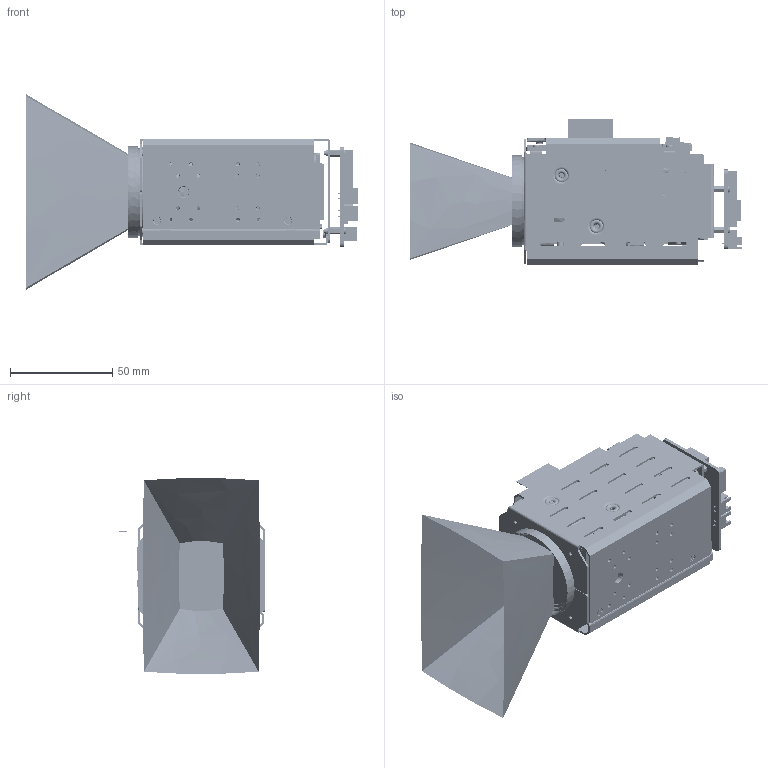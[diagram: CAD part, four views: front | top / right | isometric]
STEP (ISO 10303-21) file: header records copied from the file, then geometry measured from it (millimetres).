
FILE_DESCRIPTION((''),'2;1');
FILE_NAME('AS-CAM-23IP4K_ASM','2024-01-03T',('ming.wen'),(''),'CREO PARAMETRIC BY PTC INC, 2018070','CREO PARAMETRIC BY PTC INC, 2018070','');
FILE_SCHEMA(('AUTOMOTIVE_DESIGN { 1 0 10303 214 1 1 1 1 }'));
Products named in the file (63): IMX385-SENSORB-T10-ASM-190228; CMOS-IMX334LQR-C; DIANPIAN-IMX385; SILICON-FOR-LENS; ZIF-36PIN-33040480206; WAFER-8PIN-V; WAFER-3PIN-V; T-FLASH-CARD; BRACKET_LEFT; BRACKET_RIGHT; AS-CAM-23IP4KX-BRACKET_ASM; FV-AS-CAM-23IP4KX-CONVERT-V10-TOP_; COPPER_NUT_M2-3X5; FV-AS-CAM-23IP4KX-CONVERT_ASM; THERMAL-RUBBER; KM2-3; SCREW-PM2X4; FV-AS-CAM-23IP4KXX_MAINB_V11; WSON8-MX25L12835ZN; R0805H6; FS2411H11; SMAH24; FPC40CLH21; SOT23_123H11; ES0603H10; FPC43CLH21; VFLGA12C21X21H10; SOT26_6H14; LGA16C30X30H10; QFN44B60X60H9; L0603H10; OSC4S32X25H8; C0603H9; SRN8-0804; SO8J40X50H18; SOT353_5_SOT23_5H11; FID35R; SOT23_5H15; SOT23_6H11; SOD323H10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
Assembly tree (552 placements, depth 3):
  000-AS-CAM-23IP4KX_ASM
    IMX385-SENSORB-T10-ASM-190228
    CMOS-IMX334LQR-C
    DIANPIAN-IMX385
    SILICON-FOR-LENS
    ZIF-36PIN-33040480206
    WAFER-8PIN-V
    WAFER-3PIN-V
    T-FLASH-CARD
    AS-CAM-23IP4KX-BRACKET_ASM
      BRACKET_LEFT
      BRACKET_RIGHT
    FV-AS-CAM-23IP4KX-CONVERT_ASM
      FV-AS-CAM-23IP4KX-CONVERT-V10-TOP_
      COPPER_NUT_M2-3X5  x4
    THERMAL-RUBBER
    KM2-3  x5
    SCREW-PM2X4  x7
    FV-AS-CAM-23IP4KXX_MAINB_V11_ASM
      FV-AS-CAM-23IP4KXX_MAINB_V11
      WSON8-MX25L12835ZN
      R0805H6
      FS2411H11
      SMAH24  x2
      FPC40CLH21
      SOT23_123H11
      ES0603H10  x11
      FPC43CLH21
      VFLGA12C21X21H10
      SOT26_6H14
      LGA16C30X30H10
      QFN44B60X60H9  x2
      L0603H10  x14
      OSC4S32X25H8
      C0603H9  x11
      SRN8-0804  x2
      SO8J40X50H18
      SOT353_5_SOT23_5H11  x5
      FID35R  x5
      SOT23_5H15
      SOT23_6H11  x2
      SOD323H10  x3
      C1206H18  x15
      SC0603  x11
      X4S32X25H8
      X4S67X15H14
      SOT-563  x3
      SOIC8J40X51H18
      TFS16JV71X127H22
      BGA153-20-1414-ENIG
      BGA_DDR3-1GB  x2
      TFBGA-13X13-361P_0_65MM
      SR0402  x105
      C0603  x4
      R0402  x17
      C0402  x4
      TPC30B  x8
      R0402H4  x95
      L1515H30  x5
      BATS2D48H18
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Bounding box: 162.14 x 71.05 x 95.54 mm (x, y, z)
Surface area: 178566.6 mm2 (no closed solid volume)
Topology: 0 solids, 0 shells, 33076 faces, 172752 edges, 169704 vertices
Faces by surface type: bspline 29510, sphere 3146, torus 420
Entity records: 894020 total; most frequent: CARTESIAN_POINT 315387, DIRECTION 84438, TRIMMED_CURVE 73419, VECTOR 65804, LINE 65804, COMPOSITE_CURVE_SEGMENT 53573, DEFINITIONAL_REPRESENTATION 52963, PCURVE 52963
